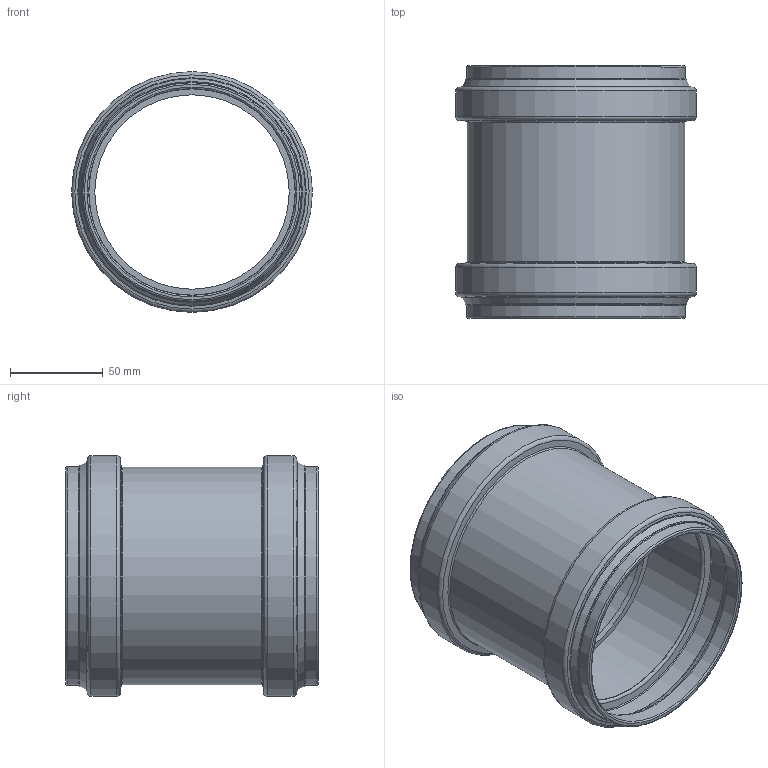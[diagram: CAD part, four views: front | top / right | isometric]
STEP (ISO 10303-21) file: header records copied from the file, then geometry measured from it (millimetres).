
FILE_DESCRIPTION(/* description */ (''),/* implementation_level */ '2;1');
FILE_NAME(/* name */ '777300z.stp',/* time_stamp */ '2026-08-03T13:05:23+02:00',/* author */ ('corinna'),/* organization */ (''),/* preprocessor_version */ 'ST-DEVELOPER v20',/* originating_system */ 'Autodesk Inventor 2024',/* authorisation */ '');
FILE_SCHEMA (('AUTOMOTIVE_DESIGN { 1 0 10303 214 3 1 1 }'));
Length unit declared in the file: millimetre
Products named in the file (1): 777300z
Bounding box: 129.6 x 136 x 129.6 mm (x, y, z)
Volume: 179418.3 mm3; surface area: 116156.6 mm2
Topology: 1 solids, 1 shells, 60 faces, 158 edges, 104 vertices
Faces by surface type: torus 28, cylinder 14, cone 12, plane 6
Full cylindrical faces by diameter (mm): 104.6 x1, 111 x2, 111.4 x4, 117.2 x1, 117.6 x2, 123.4 x2, 129.6 x2
Entity records: 1989 total; most frequent: DIRECTION 412, CARTESIAN_POINT 323, ORIENTED_EDGE 316, AXIS2_PLACEMENT_3D 193, EDGE_CURVE 158, CIRCLE 132, VERTEX_POINT 104, EDGE_LOOP 66
